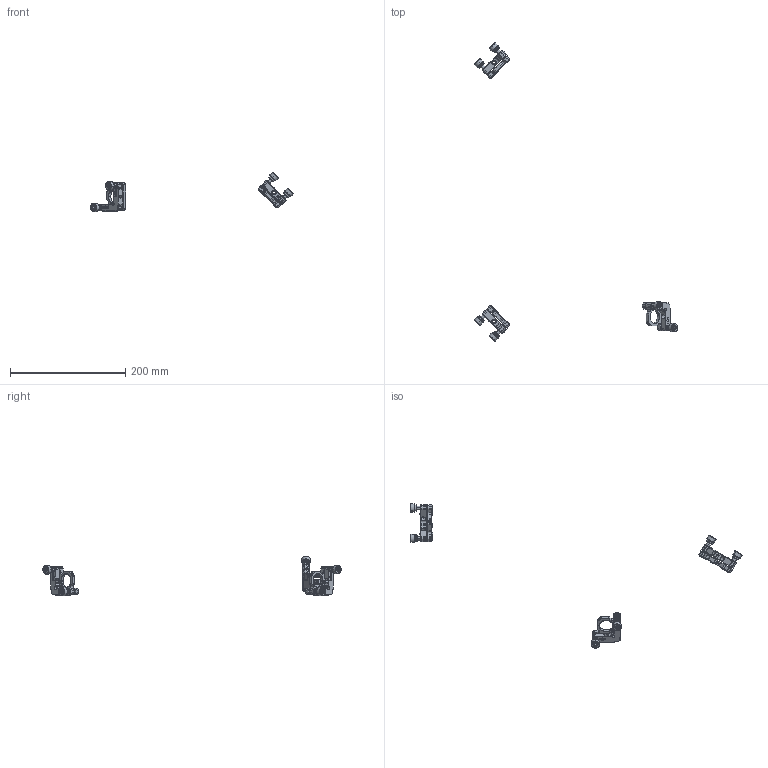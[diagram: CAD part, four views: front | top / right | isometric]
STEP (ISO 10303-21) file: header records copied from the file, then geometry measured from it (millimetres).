
FILE_DESCRIPTION(/* description */ (''),/* implementation_level */ '2;1');
FILE_NAME(/* name */ '10.optics-laser#10.2#la-mmp',/* time_stamp */ '2014-12-01T20:19:05+01:00',/* author */ (''),/* organization */ (''),/* preprocessor_version */ 'ST-DEVELOPER v14',/* originating_system */ '',/* authorisation */ '');
FILE_SCHEMA (('AUTOMOTIVE_DESIGN'));
Products named in the file (2): Document; ThorLabs mirror mount, KM100
Assembly tree (2 placements, depth 2):
  Document
    ThorLabs mirror mount, KM100  x2
Bounding box: 353.07 x 518.69 x 68.52 mm (x, y, z)
Volume: 62667.3 mm3; surface area: 47414.9 mm2
Topology: 63 solids, 63 shells, 2562 faces, 6246 edges, 3915 vertices
Faces by surface type: bspline 1443, plane 1119
Entity records: 147971 total; most frequent: CARTESIAN_POINT 93875, B_SPLINE_CURVE_WITH_KNOTS 10230, ORIENTED_EDGE 8208, PCURVE 8208, DEFINITIONAL_REPRESENTATION 8208, SURFACE_CURVE 4104, EDGE_CURVE 4104, VERTEX_POINT 2610
